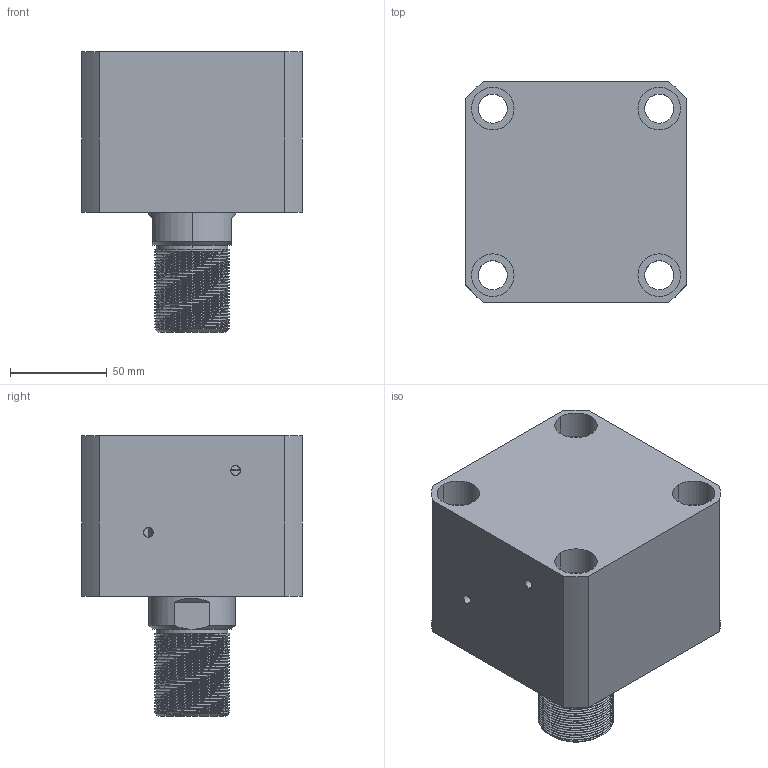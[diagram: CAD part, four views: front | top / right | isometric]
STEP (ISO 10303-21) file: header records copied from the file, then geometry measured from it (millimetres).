
FILE_DESCRIPTION (( 'STEP AP214' ), '1' );
FILE_NAME ('chtb-sdma80x5wasm.STEP', '2018-05-29T02:59:31', ( 'Windows' ), ( 'Microsoft' ), 'SwSTEP 2.0', 'SolidWorks 2015', '' );
FILE_SCHEMA (( 'AUTOMOTIVE_DESIGN' ));
Length unit declared in the file: millimetre
Products named in the file (4): CHTB-SDMA80X5NBT; CHTB-SD80X5WHSG; CHTB-SD80QG; chtb-sdma80x5wasm
Assembly tree (3 placements, depth 2):
  chtb-sdma80x5wasm
    CHTB-SD80QG
    CHTB-SD80X5WHSG
    CHTB-SDMA80X5NBT
Bounding box: 114 x 114 x 145 mm (x, y, z)
Volume: 1024063.8 mm3; surface area: 161877.9 mm2
Topology: 3 solids, 3 shells, 251 faces, 695 edges, 466 vertices
Faces by surface type: cylinder 163, plane 38, torus 18, bspline 16, cone 16
Entity records: 20277 total; most frequent: CARTESIAN_POINT 14301, ORIENTED_EDGE 1382, DIRECTION 1068, EDGE_CURVE 691, VERTEX_POINT 466, AXIS2_PLACEMENT_3D 433, EDGE_LOOP 289, ADVANCED_FACE 251
